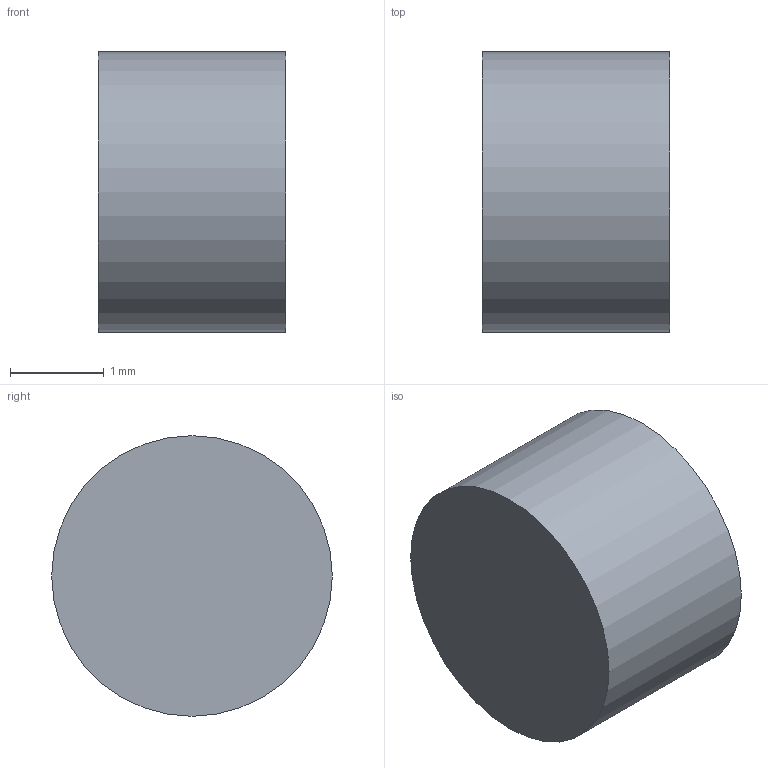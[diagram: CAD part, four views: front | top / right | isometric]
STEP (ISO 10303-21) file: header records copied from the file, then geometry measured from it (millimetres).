
FILE_DESCRIPTION(('Open CASCADE Model'),'2;1');
FILE_NAME('Open CASCADE Shape Model','2026-11-23T18:10:00',('Author'),( 'Open CASCADE'),'Open CASCADE STEP processor 8.0','build123d', 'Unknown');
FILE_SCHEMA(('AUTOMOTIVE_DESIGN { 1 0 10303 214 1 1 1 1 }'));
Length unit declared in the file: millimetre
Products named in the file (2): =>[0:1:1:2]; SOLID
Assembly tree (1 placements, depth 2):
  =>[0:1:1:2]
    SOLID
Bounding box: 2 x 3 x 3 mm (x, y, z)
Volume: 14.1 mm3; surface area: 33 mm2
Topology: 1 solids, 1 shells, 3 faces, 3 edges, 2 vertices
Faces by surface type: plane 2, cylinder 1
Full cylindrical faces by diameter (mm): 3 x1
Entity records: 126 total; most frequent: DIRECTION 21, CARTESIAN_POINT 16, AXIS2_PLACEMENT_3D 7, ORIENTED_EDGE 6, PCURVE 6, DEFINITIONAL_REPRESENTATION 6, LINE 5, VECTOR 5
